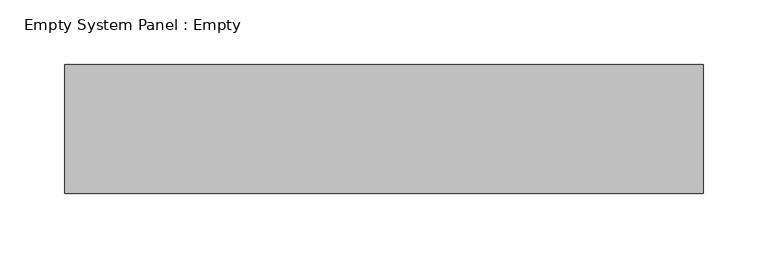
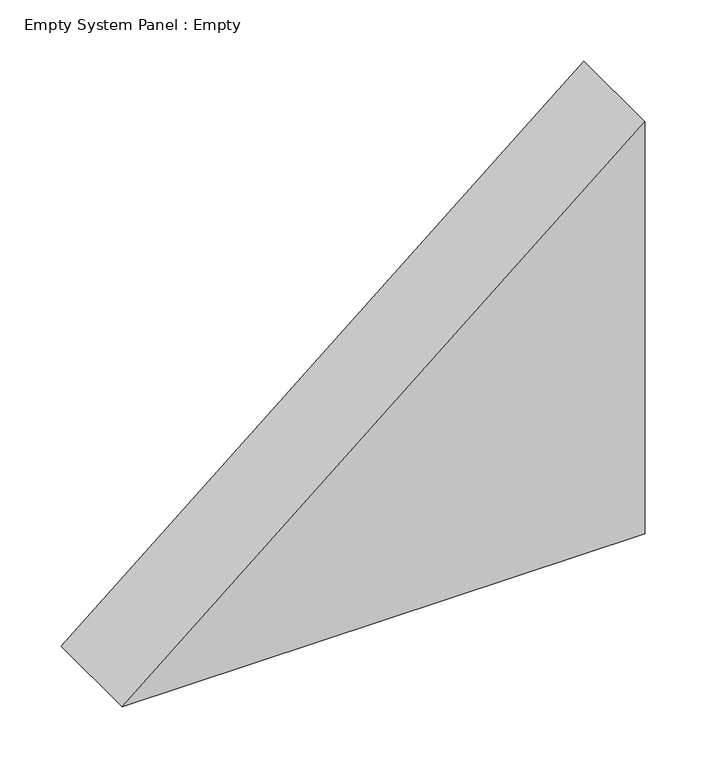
"""IFC4 building model written with IfcOpenShell, lengths in millimetres: plate geometry, Empty System Panel : Empty."""

from ifc_helpers import new_model, si_unit, frame, origin, place, context, project, spatial, polyline, outline, extrude, source, transform, mapped, element, save


def empty_system_panel_empty_56b68a96(model_context):
    return source(origin(), model_context, "Body", "SweptSolid", [
        extrude(outline(polyline([(0.0, -247.2855471), (0.0, 247.2855471), (411.6312034, 247.2855471), (0.0, -247.2855471)])), frame((0.0, -50.0, 0.0), z_axis=(0.0, 1.0, 0.0), x_axis=(0.0, 0.0, 1.0)), (0.0, 0.0, 1.0), 100.0),
    ])


if __name__ == "__main__":
    model = new_model("IFC4")
    model_context = context("Model", 3, world=origin())
    ifc_project = project(units=[si_unit("LENGTHUNIT", "METRE", prefix="MILLI")], contexts=[model_context])
    site = spatial("IfcSite", under=ifc_project)
    building = spatial("IfcBuilding", under=site)
    placement = place(None, origin())
    empty_system_panel_empty_shape = empty_system_panel_empty_56b68a96(model_context)
    element("IfcPlate", 1, ObjectType="Empty System Panel : Empty", at=placement, inside=building, context=model_context, shape_type="MappedRepresentation", body=[
        mapped(empty_system_panel_empty_shape, transform((0.0, 0.0, 0.0), x_axis=(1.0, 0.0, 0.0), y_axis=(0.0, 1.0, 0.0), z_axis=(0.0, 0.0, 1.0))),
    ])
    save(model, "model.ifc")
